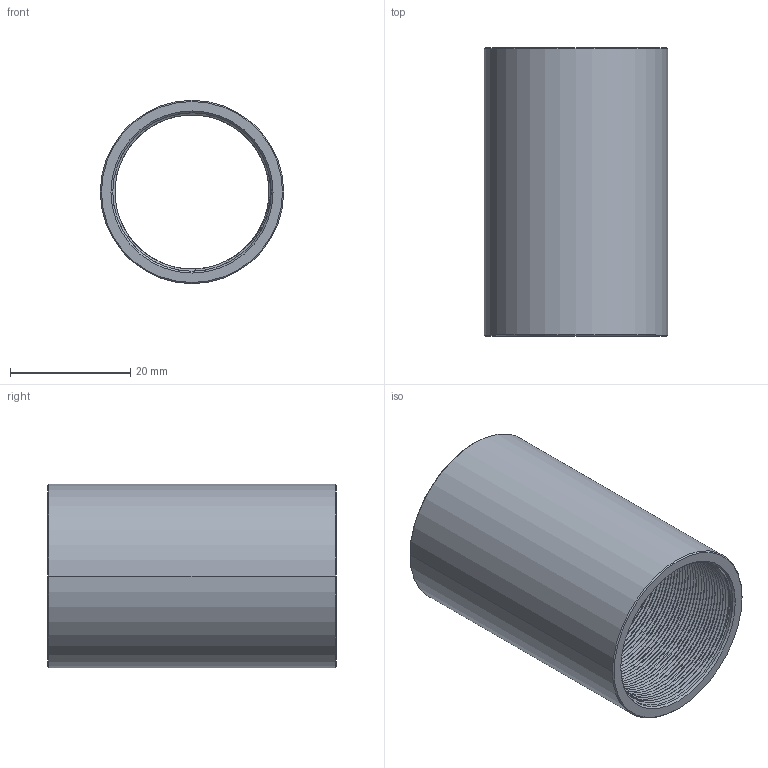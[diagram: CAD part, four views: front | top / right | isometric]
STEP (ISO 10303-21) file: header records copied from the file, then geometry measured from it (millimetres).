
FILE_DESCRIPTION((''),'2;1');
FILE_NAME('CSB-48','2020-10-15T',('Administrator'),(''),'CREO PARAMETRIC BY PTC INC, 2015290','CREO PARAMETRIC BY PTC INC, 2015290','');
FILE_SCHEMA(('CONFIG_CONTROL_DESIGN'));
Length unit declared in the file: millimetre
Products named in the file (1): CSB-48
Bounding box: 30.5 x 48 x 30.5 mm (x, y, z)
Volume: 9403.3 mm3; surface area: 10990.4 mm2
Topology: 1 solids, 1 shells, 201 faces, 569 edges, 370 vertices
Faces by surface type: cylinder 149, bspline 42, cone 8, plane 2
Entity records: 25046 total; most frequent: CARTESIAN_POINT 20625, ORIENTED_EDGE 1138, EDGE_CURVE 569, DIRECTION 548, VERTEX_POINT 370, B_SPLINE_CURVE_WITH_KNOTS 355, EDGE_LOOP 203, FACE_OUTER_BOUND 201
